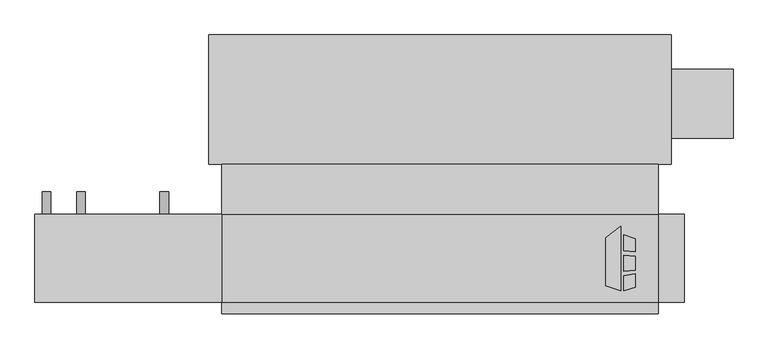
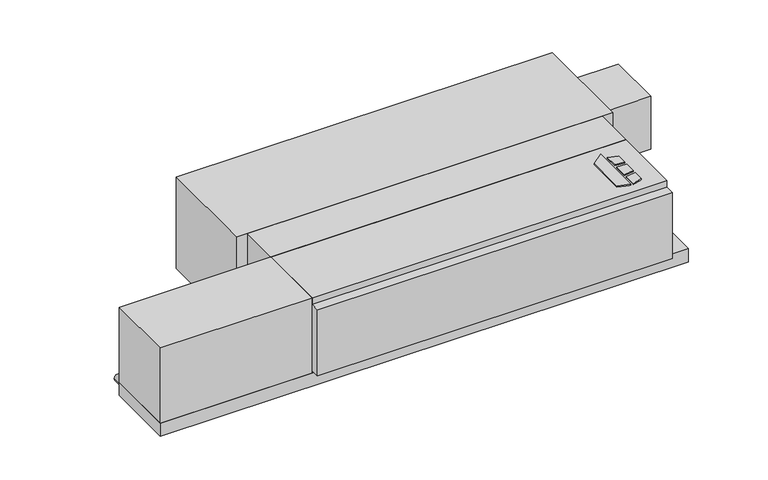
"""IFC4 building model written with IfcOpenShell, lengths in millimetres: proxy geometry, Concealed_Horizontal_Fan_Coil_Unit_With_Plenum_-_CPF_-_IEC_-_4-Pipe_LH : Size 08 - 115v/60Hz/1Ph - 4/1 Coil."""

from ifc_helpers import new_model, si_unit, point, frame, frame_2d, origin, origin_with_axes, place, context, project, spatial, polyline, circle_curve, trimmed, segment, composite_curve, outline, extrude, source, transform, mapped, element, save


def mechanical_equipment_fca31fa8(model_context):
    return source(origin(), model_context, "Body", "SweptSolid", [
        extrude(outline(polyline([(518.8019761, -193.0453476), (551.3602728, -167.6080184), (551.3602728, -309.5625), (518.8019761, -299.3429201), (518.8019761, -193.0453476)])), origin_with_axes(), (0.0, 0.0, 1.0), 3.175),
        extrude(outline(polyline([(558.1186058, -220.917352), (558.1186058, -186.4374379), (584.2, -194.6240115), (584.2, -224.1197446), (558.1186058, -220.917352)])), origin_with_axes(), (0.0, 0.0, 1.0), 3.175),
        extrude(outline(polyline([(584.2, -302.5740115), (558.1186058, -309.5625), (558.1186058, -276.3411996), (584.2, -272.7993564), (584.2, -302.5740115)])), origin_with_axes(), (0.0, 0.0, 1.0), 3.175),
        extrude(outline(polyline([(584.2, -233.2013277), (584.2, -264.451483), (558.1186058, -267.192748), (558.1186058, -231.3350378), (584.2, -233.2013277)])), origin_with_axes(), (0.0, 0.0, 1.0), 3.175),
        extrude(outline(polyline([(-330.2, -30.1625), (635.0, -30.1625), (635.0, -141.2875), (-330.2, -141.2875), (-330.2, -30.1625)])), frame((0.0, 0.0, -215.9), z_axis=(0.0, 0.0, 1.0), x_axis=(1.0, 0.0, 0.0)), (0.0, 0.0, 1.0), 215.9),
        extrude(outline(polyline([(-742.95, -334.9625), (-742.95, -141.2875), (-330.2, -141.2875), (-330.2, -334.9625), (-742.95, -334.9625)])), frame((0.0, 0.0, -215.9), z_axis=(0.0, 0.0, 1.0), x_axis=(1.0, 0.0, 0.0)), (0.0, 0.0, 1.0), 215.9),
        extrude(outline(polyline([(692.15, -141.2875), (692.15, -334.9625), (-742.95, -334.9625), (-742.95, -141.2875), (692.15, -141.2875)])), frame((0.0, 0.0, -254.0), z_axis=(0.0, 0.0, 1.0), x_axis=(1.0, 0.0, 0.0)), (0.0, 0.0, 1.0), 38.1),
        extrude(outline(composite_curve([segment(trimmed(circle_curve(frame_2d((-158.75, -641.35)), 9.525), [point((-158.75, -631.825))], [point((-158.75, -650.875))], False, "CARTESIAN"), True, "CONTINUOUS"), segment(trimmed(circle_curve(frame_2d((-158.75, -641.35)), 9.525), [point((-158.75, -650.875))], [point((-158.75, -631.825))], False, "CARTESIAN"), True, "CONTINUOUS")], self_intersect=False)), frame((0.0, -141.2875, 0.0), z_axis=(0.0, 1.0, 0.0), x_axis=(0.0, 0.0, 1.0)), (0.0, 0.0, 1.0), 50.8),
        extrude(outline(composite_curve([segment(trimmed(circle_curve(frame_2d((-69.85, -641.35)), 9.525), [point((-69.85, -631.825))], [point((-69.85, -650.875))], False, "CARTESIAN"), True, "CONTINUOUS"), segment(trimmed(circle_curve(frame_2d((-69.85, -641.35)), 9.525), [point((-69.85, -650.875))], [point((-69.85, -631.825))], False, "CARTESIAN"), True, "CONTINUOUS")], self_intersect=False)), frame((0.0, -141.2875, 0.0), z_axis=(0.0, 1.0, 0.0), x_axis=(0.0, 0.0, 1.0)), (0.0, 0.0, 1.0), 50.8),
        extrude(outline(composite_curve([segment(trimmed(circle_curve(frame_2d((-69.85, -457.2)), 9.525), [point((-69.85, -447.675))], [point((-69.85, -466.725))], False, "CARTESIAN"), True, "CONTINUOUS"), segment(trimmed(circle_curve(frame_2d((-69.85, -457.2)), 9.525), [point((-69.85, -466.725))], [point((-69.85, -447.675))], False, "CARTESIAN"), True, "CONTINUOUS")], self_intersect=False)), frame((0.0, -141.2875, 0.0), z_axis=(0.0, 1.0, 0.0), x_axis=(0.0, 0.0, 1.0)), (0.0, 0.0, 1.0), 50.8),
        extrude(outline(composite_curve([segment(trimmed(circle_curve(frame_2d((-158.75, -457.2)), 9.525), [point((-158.75, -447.675))], [point((-158.75, -466.725))], False, "CARTESIAN"), True, "CONTINUOUS"), segment(trimmed(circle_curve(frame_2d((-158.75, -457.2)), 9.525), [point((-158.75, -466.725))], [point((-158.75, -447.675))], False, "CARTESIAN"), True, "CONTINUOUS")], self_intersect=False)), frame((0.0, -141.2875, 0.0), z_axis=(0.0, 1.0, 0.0), x_axis=(0.0, 0.0, 1.0)), (0.0, 0.0, 1.0), 50.8),
        extrude(outline(composite_curve([segment(trimmed(circle_curve(frame_2d((-241.3, -717.55)), 9.525), [point((-241.3, -727.075))], [point((-241.3, -708.025))], False, "CARTESIAN"), True, "CONTINUOUS"), segment(trimmed(circle_curve(frame_2d((-241.3, -717.55)), 9.525), [point((-241.3, -708.025))], [point((-241.3, -727.075))], False, "CARTESIAN"), True, "CONTINUOUS")], self_intersect=False)), frame((0.0, -141.2875, 0.0), z_axis=(0.0, 1.0, 0.0), x_axis=(0.0, 0.0, 1.0)), (0.0, 0.0, 1.0), 50.8),
        extrude(outline(polyline([(635.0, -334.9625), (635.0, -360.3625), (-330.2, -360.3625), (-330.2, -334.9625), (635.0, -334.9625)])), frame((0.0, 0.0, -209.55), z_axis=(0.0, 0.0, 1.0), x_axis=(1.0, 0.0, 0.0)), (0.0, 0.0, 1.0), 190.5),
        extrude(outline(polyline([(635.0, -334.9625), (-330.2, -334.9625), (-330.2, -141.2875), (635.0, -141.2875), (635.0, -334.9625)])), frame((0.0, 0.0, -215.9), z_axis=(0.0, 0.0, 1.0), x_axis=(1.0, 0.0, 0.0)), (0.0, 0.0, 1.0), 215.9),
        extrude(outline(polyline([(663.575, 26.9875), (663.575, 179.3875), (800.1, 179.3875), (800.1, 26.9875), (663.575, 26.9875)])), frame((0.0, 0.0, -187.325), z_axis=(0.0, 0.0, 1.0), x_axis=(1.0, 0.0, 0.0)), (0.0, 0.0, 1.0), 152.4),
        extrude(outline(polyline([(-358.775, 255.5875), (663.575, 255.5875), (663.575, -30.1625), (-358.775, -30.1625), (-358.775, 255.5875)])), frame((0.0, 0.0, -263.525), z_axis=(0.0, 0.0, 1.0), x_axis=(1.0, 0.0, 0.0)), (0.0, 0.0, 1.0), 263.525),
    ])


if __name__ == "__main__":
    model = new_model("IFC4")
    model_context = context("Model", 3, world=origin())
    ifc_project = project(units=[si_unit("LENGTHUNIT", "METRE", prefix="MILLI")], contexts=[model_context])
    site = spatial("IfcSite", under=ifc_project)
    building = spatial("IfcBuilding", under=site)
    placement = place(None, origin())
    mechanical_equipment_shape = mechanical_equipment_fca31fa8(model_context)
    element("IfcBuildingElementProxy", 1, Name="Concealed_Horizontal_Fan_Coil_Unit_With_Plenum_-_CPF_-_IEC_-_4-Pipe_LH : Size 08 - 115v/60Hz/1Ph - 4/1 Coil", ObjectType="Concealed_Horizontal_Fan_Coil_Unit_With_Plenum_-_CPF_-_IEC_-_4-Pipe_LH : Size 08 - 115v/60Hz/1Ph - 4/1 Coil", at=placement, inside=building, context=model_context, shape_type="MappedRepresentation", body=[
        mapped(mechanical_equipment_shape, transform((0.0, 0.0, 0.0), x_axis=(1.0, 0.0, 0.0), y_axis=(0.0, 1.0, 0.0), z_axis=(0.0, 0.0, 1.0))),
    ])
    save(model, "model.ifc")
